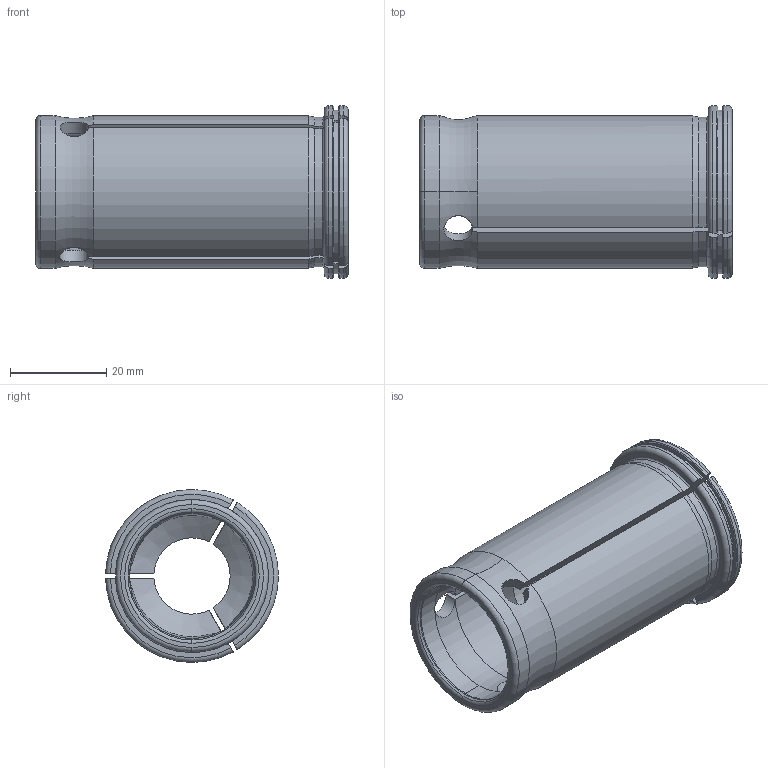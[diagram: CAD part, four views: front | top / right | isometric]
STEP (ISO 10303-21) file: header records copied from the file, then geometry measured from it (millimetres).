
FILE_DESCRIPTION((''),'2;1');
FILE_NAME('K31_75-15_875','2020-09-02T08:22:07',('ssktool'),(''),'CREO PARAMETRIC BY PTC INC, 2018100','CREO PARAMETRIC BY PTC INC, 2018100','');
FILE_SCHEMA(('CONFIG_CONTROL_DESIGN'));
Length unit declared in the file: millimetre
Products named in the file (1): K31_75-15_875
Bounding box: 65 x 35.99 x 36 mm (x, y, z)
Volume: 30760.4 mm3; surface area: 13858.9 mm2
Topology: 1 solids, 1 shells, 90 faces, 254 edges, 165 vertices
Faces by surface type: cylinder 28, torus 26, plane 19, cone 17
Entity records: 3333 total; most frequent: CARTESIAN_POINT 1033, ORIENTED_EDGE 508, DIRECTION 448, EDGE_CURVE 254, AXIS2_PLACEMENT_3D 185, VERTEX_POINT 165, CIRCLE 95, EDGE_LOOP 91
